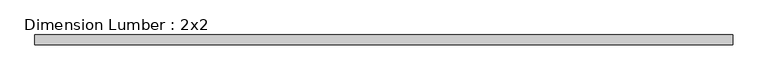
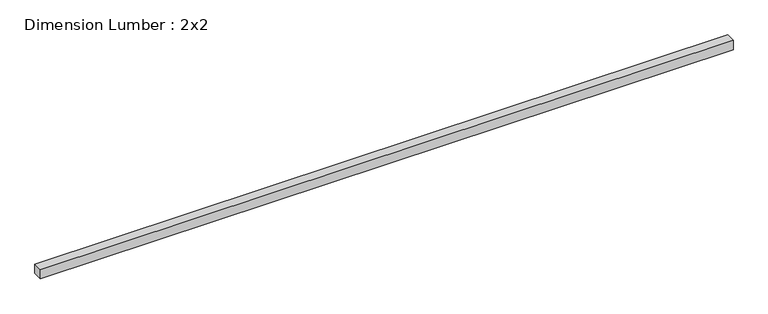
"""IFC4 building model written with IfcOpenShell, lengths in millimetres: beam geometry, Dimension Lumber : 2x2."""

import ifcopenshell
import ifcopenshell.guid

model = None  # the IFC model being written
_history = None  # IfcOwnerHistory: only IFC2X3 demands one
_inside = {}  # id of a spatial element -> (the spatial element, [elements in it])
_under = {}  # id of a project, library or spatial element -> (it, [spatial elements below it])
_declared = {}  # id of a project -> (the project, [libraries it declares])
_typed = {}  # id of a type object -> (the type object, [elements of that type])
_made_of = {}  # id of a material, layer set ... -> (it, [elements and type objects made of it])


def new_model(schema):
    """Start an empty IFC model of exactly this schema.

    Asked for "IFC4X3", IfcOpenShell would pick the latest addendum, in which some entities
    have other attributes; the version numbers below select the first issue.
    IFC2X3 requires an IfcOwnerHistory on every rooted entity: one is made here for all.
    """
    global model, _history
    if schema == "IFC4X3":
        model = ifcopenshell.file(schema_version=(4, 3, 0, 0))
    else:
        model = ifcopenshell.file(schema=schema)
    _inside.clear()
    _under.clear()
    _declared.clear()
    _typed.clear()
    _made_of.clear()
    _history = None
    if model.schema == "IFC2X3":
        org = make("IfcOrganization", Name="unknown")
        user = make(
            "IfcPersonAndOrganization",
            ThePerson=make("IfcPerson", FamilyName="unknown"),
            TheOrganization=org,
        )
        app = make(
            "IfcApplication",
            ApplicationDeveloper=org,
            Version="unknown",
            ApplicationFullName="unknown",
            ApplicationIdentifier="unknown",
        )
        _history = make(
            "IfcOwnerHistory",
            OwningUser=user,
            OwningApplication=app,
            ChangeAction="ADDED",
            CreationDate=0,
        )
    return model


def make(cls, **values):
    """One entity of the class cls with the attributes given. An attribute that is None is left unset."""
    return model.create_entity(
        cls, **{name: value for name, value in values.items() if value is not None}
    )


def rooted(cls, **values):
    """An entity with a GlobalId (a new one), such as an element, a storey or a relation."""
    return make(cls, GlobalId=ifcopenshell.guid.new(), OwnerHistory=_history, **values)


def si_unit(unit_type, name, prefix=None):
    """IfcSIUnit, for example si_unit("LENGTHUNIT", "METRE", prefix="MILLI")."""
    return make("IfcSIUnit", UnitType=unit_type, Prefix=prefix, Name=name)


def assignment(units):
    """IfcUnitAssignment: the units of a project."""
    return None if units is None else make("IfcUnitAssignment", Units=units)


def point(xyz):
    """IfcCartesianPoint."""
    return None if xyz is None else make("IfcCartesianPoint", Coordinates=xyz)


def direction(xyz):
    """IfcDirection."""
    return None if xyz is None else make("IfcDirection", DirectionRatios=xyz)


def frame(location, z_axis=None, x_axis=None):
    """IfcAxis2Placement3D, a coordinate frame: its origin and axes. An axis left out is left unset."""
    return make(
        "IfcAxis2Placement3D",
        Location=point(location),
        Axis=direction(z_axis),
        RefDirection=direction(x_axis),
    )


def origin():
    """The frame at (0, 0, 0) with its axes left unset."""
    return frame((0.0, 0.0, 0.0))


def place(relative_to, where):
    """IfcLocalPlacement: puts the frame where relative to a parent placement (None: the world)."""
    return make(
        "IfcLocalPlacement", PlacementRelTo=relative_to, RelativePlacement=where
    )


def context(
    kind, dimensions, precision=None, world=None, true_north=None, identifier=None
):
    """IfcGeometricRepresentationContext, for example the 3D "Model" context."""
    return make(
        "IfcGeometricRepresentationContext",
        ContextIdentifier=identifier,
        ContextType=kind,
        CoordinateSpaceDimension=dimensions,
        Precision=precision,
        WorldCoordinateSystem=world,
        TrueNorth=true_north,
    )


def project(units=None, contexts=None):
    """IfcProject with its units and contexts."""
    return rooted(
        "IfcProject",
        Name="project",
        RepresentationContexts=contexts,
        UnitsInContext=assignment(units),
    )


def spatial(cls, under=None, at=None, **own):
    """A site, building, storey or space (cls), placed at a placement, below another one or the project."""
    s = rooted(cls, ObjectPlacement=at, **own)
    if under is not None:
        _under.setdefault(under.id(), (under, []))[1].append(s)
    return s


def polyline(points):
    """IfcPolyline through the points."""
    return make("IfcPolyline", Points=[point(p) for p in points])


def outline(outer, holes=None, kind="AREA"):
    """IfcArbitraryClosedProfileDef: a profile drawn as a closed curve; with holes, ...WithVoids."""
    if holes is None:
        return make("IfcArbitraryClosedProfileDef", ProfileType=kind, OuterCurve=outer)
    return make(
        "IfcArbitraryProfileDefWithVoids",
        ProfileType=kind,
        OuterCurve=outer,
        InnerCurves=holes,
    )


def extrude(swept, where, along, depth):
    """IfcExtrudedAreaSolid: the profile swept, set in the frame where, extruded along a direction by depth."""
    return make(
        "IfcExtrudedAreaSolid",
        SweptArea=swept,
        Position=where,
        ExtrudedDirection=direction(along),
        Depth=depth,
    )


def shape(context_of_items, identifier, shape_type, items):
    """IfcShapeRepresentation: the items that make up one representation, for example the "Body"."""
    return make(
        "IfcShapeRepresentation",
        ContextOfItems=context_of_items,
        RepresentationIdentifier=identifier,
        RepresentationType=shape_type,
        Items=items,
    )


def source(mapping_origin, context_of_items, identifier, shape_type, items):
    """IfcRepresentationMap: a shape defined once, which mapped items show again and again."""
    return make(
        "IfcRepresentationMap",
        MappingOrigin=mapping_origin,
        MappedRepresentation=shape(context_of_items, identifier, shape_type, items),
    )


def transform(
    local_origin,
    x_axis=None,
    y_axis=None,
    z_axis=None,
    scale=None,
    scale2=None,
    scale3=None,
    uniform=True,
):
    """IfcCartesianTransformationOperator3D, or its non-uniform kind. x_axis, y_axis, z_axis: its Axis1, 2, 3."""
    if uniform:
        return make(
            "IfcCartesianTransformationOperator3D",
            Axis1=direction(x_axis),
            Axis2=direction(y_axis),
            LocalOrigin=point(local_origin),
            Scale=scale,
            Axis3=direction(z_axis),
        )
    return make(
        "IfcCartesianTransformationOperator3DnonUniform",
        Axis1=direction(x_axis),
        Axis2=direction(y_axis),
        LocalOrigin=point(local_origin),
        Scale=scale,
        Axis3=direction(z_axis),
        Scale2=scale2,
        Scale3=scale3,
    )


def mapped(mapping_source, mapping_target):
    """IfcMappedItem: shows the shape of a source again, moved by a transform."""
    return make(
        "IfcMappedItem", MappingSource=mapping_source, MappingTarget=mapping_target
    )


def made_of(thing, what):
    """Note that an element or type object is made of a material, layer set ...; save() writes the relation."""
    if what is not None:
        _made_of.setdefault(what.id(), (what, []))[1].append(thing)
    return thing


def element(
    cls,
    number,
    at=None,
    inside=None,
    cuts=None,
    type_object=None,
    material=None,
    context=None,
    identifier="Body",
    shape_type=None,
    held_by="IfcProductDefinitionShape",
    body=None,
    shapes=None,
    **own,
):
    """One element of the class cls, such as IfcWall. Its Tag is "e" and its number.

    at: its placement. inside: the storey or other place that contains it. cuts: it is an
    opening in that element (IfcRelVoidsElement). A single representation is given by context,
    identifier, shape_type and body (its items); several are given by shapes. held_by: the class
    of the entity that holds the representations. save() writes the other relations.
    """
    e = rooted(cls, Tag="e%d" % number, ObjectPlacement=at, **own)
    if body is not None:
        shapes = [shape(context, identifier, shape_type, body)]
    if shapes is not None:
        e.Representation = make(held_by, Representations=shapes)
    if inside is not None:
        _inside.setdefault(inside.id(), (inside, []))[1].append(e)
    if cuts is not None:
        rooted(
            "IfcRelVoidsElement", RelatingBuildingElement=cuts, RelatedOpeningElement=e
        )
    if type_object is not None:
        _typed.setdefault(type_object.id(), (type_object, []))[1].append(e)
    return made_of(e, material)


def aggregate(whole, parts):
    """IfcRelAggregates: a whole, such as a stair, and the parts it consists of."""
    return rooted("IfcRelAggregates", RelatingObject=whole, RelatedObjects=parts)


def save(model, path):
    """Write the relations noted so far, then the file.

    IfcRelAggregates (storeys below a building ...), IfcRelContainedInSpatialStructure (elements
    in a storey), IfcRelDefinesByType, IfcRelAssociatesMaterial and IfcRelDeclares: one each for
    every whole, place, type object, material and project.
    """
    for whole, parts in _under.values():
        aggregate(whole, parts)
    for where, things in _inside.values():
        rooted(
            "IfcRelContainedInSpatialStructure",
            RelatedElements=things,
            RelatingStructure=where,
        )
    for kind, things in _typed.values():
        rooted("IfcRelDefinesByType", RelatedObjects=things, RelatingType=kind)
    for what, things in _made_of.values():
        rooted("IfcRelAssociatesMaterial", RelatedObjects=things, RelatingMaterial=what)
    for by, libraries in _declared.values():
        rooted("IfcRelDeclares", RelatingContext=by, RelatedDefinitions=libraries)
    model.write(path)


def dimension_lumber_2x2_a1c87f7b(model_context):
    return source(origin(), model_context, "Body", "SweptSolid", [
        extrude(outline(polyline([(1371.6, 19.05), (1371.6, -19.05), (-1371.6, -19.05), (-1371.6, 19.05), (1371.6, 19.05)])), frame((0.0, 0.0, -19.05), z_axis=(0.0, 0.0, 1.0), x_axis=(1.0, 0.0, 0.0)), (0.0, 0.0, 1.0), 38.1),
    ])


if __name__ == "__main__":
    model = new_model("IFC4")
    model_context = context("Model", 3, world=origin())
    ifc_project = project(units=[si_unit("LENGTHUNIT", "METRE", prefix="MILLI")], contexts=[model_context])
    site = spatial("IfcSite", under=ifc_project)
    building = spatial("IfcBuilding", under=site)
    placement = place(None, origin())
    dimension_lumber_2x2_shape = dimension_lumber_2x2_a1c87f7b(model_context)
    element("IfcBeam", 1, ObjectType="Dimension Lumber : 2x2", at=placement, inside=building, context=model_context, shape_type="MappedRepresentation", body=[
        mapped(dimension_lumber_2x2_shape, transform((0.0, 0.0, 0.0), x_axis=(1.0, 0.0, 0.0), y_axis=(0.0, 1.0, 0.0), z_axis=(0.0, 0.0, 1.0))),
    ])
    save(model, "model.ifc")
